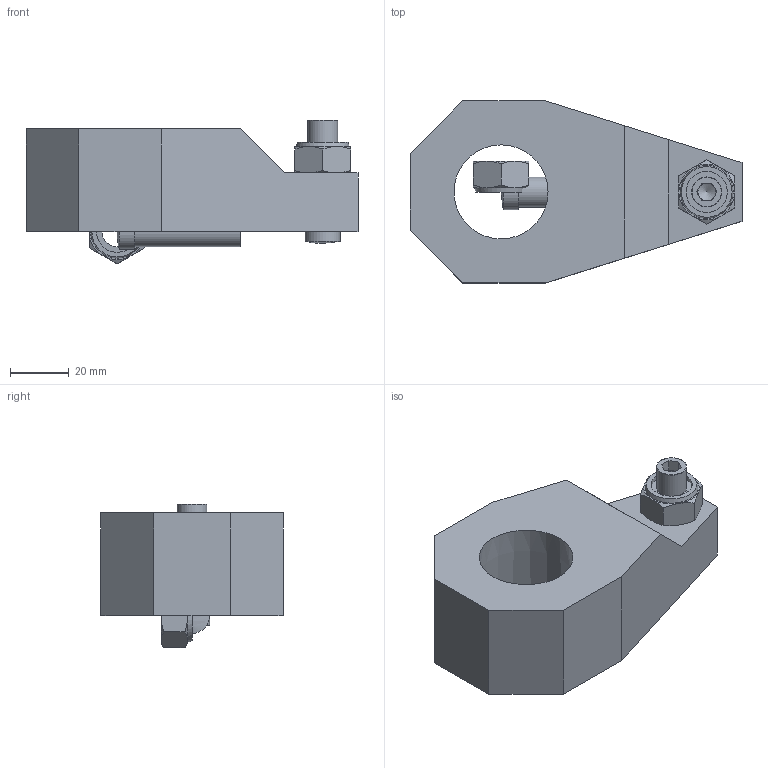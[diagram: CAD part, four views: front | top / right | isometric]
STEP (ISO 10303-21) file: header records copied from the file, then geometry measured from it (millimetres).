
FILE_DESCRIPTION( ( '' ), '1' );
FILE_NAME( 'W:/Catalogue/JF6H/JF6H65_ClampArm/JF6H65_ClampArm.stp', '2008-05-26T01:03:54', ( '機械事業部産業機器グループ' ), ( '豊和工業株式会社' ), 'XStep 1.0', ' ', ' ' );
FILE_SCHEMA( ( 'CONFIG_CONTROL_DESIGN' ) );
Length unit declared in the file: millimetre
Products named in the file (4): Assem1; 1; 2; 3
Bounding box: 113 x 62 x 48.97 mm (x, y, z)
Volume: 284547.6 mm3; surface area: 50664.4 mm2
Topology: 6 solids, 6 shells, 122 faces, 274 edges, 170 vertices
Faces by surface type: plane 74, cone 32, cylinder 14, sphere 2
Full cylindrical faces by diameter (mm): 6 x2, 10.2 x6, 12 x2, 12.5 x2, 14 x2
Entity records: 1866 total; most frequent: CARTESIAN_POINT 410, DIRECTION 262, ORIENTED_EDGE 240, EDGE_CURVE 120, AXIS2_PLACEMENT_3D 101, EDGE_LOOP 82, VERTEX_POINT 81, FACE_OUTER_BOUND 68
